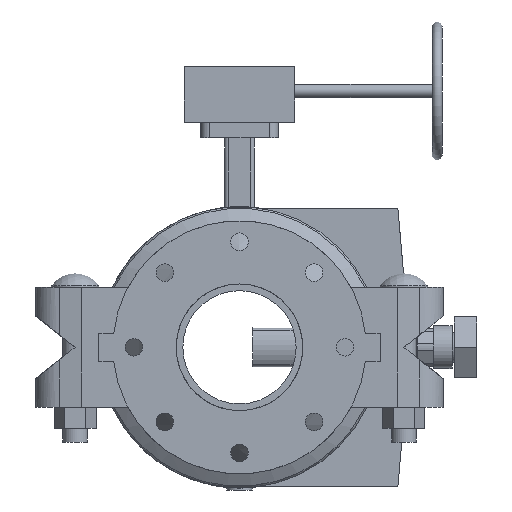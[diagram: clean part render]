
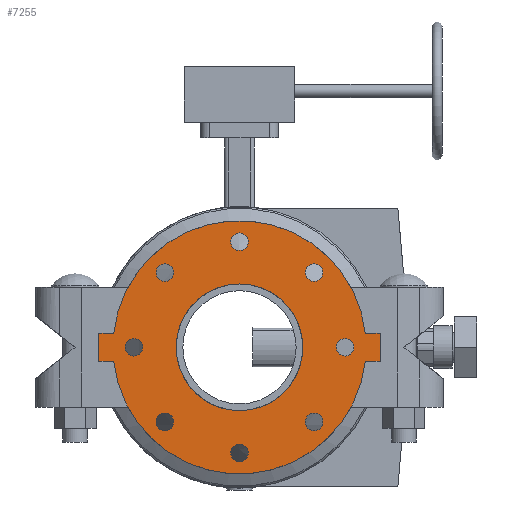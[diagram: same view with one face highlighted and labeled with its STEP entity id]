
A CAD part, front view. The second image highlights one B-rep face of the part: STEP entity #7255.
In plain terms, the highlighted planar face has unit normal (0, -1, 0) as drawn and (0, 0, -1) by its records, which use the part's own axes.
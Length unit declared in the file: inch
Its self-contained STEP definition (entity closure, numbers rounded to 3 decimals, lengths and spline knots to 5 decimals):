
#188=FACE_BOUND('',#922,.T.);
#189=FACE_BOUND('',#923,.T.);
#190=FACE_BOUND('',#924,.T.);
#191=FACE_BOUND('',#925,.T.);
#192=FACE_BOUND('',#926,.T.);
#193=FACE_BOUND('',#927,.T.);
#194=FACE_BOUND('',#928,.T.);
#195=FACE_BOUND('',#929,.T.);
#196=FACE_BOUND('',#930,.T.);
#278=PLANE('',#7868);
#524=FACE_OUTER_BOUND('',#921,.T.);
#921=EDGE_LOOP('',(#4666,#4667,#4668,#4669,#4670,#4671,#4672,#4673));
#922=EDGE_LOOP('',(#4674));
#923=EDGE_LOOP('',(#4675));
#924=EDGE_LOOP('',(#4676));
#925=EDGE_LOOP('',(#4677));
#926=EDGE_LOOP('',(#4678));
#927=EDGE_LOOP('',(#4679));
#928=EDGE_LOOP('',(#4680));
#929=EDGE_LOOP('',(#4681));
#930=EDGE_LOOP('',(#4682,#4683));
#1408=LINE('',#10997,#1949);
#1409=LINE('',#10999,#1950);
#1410=LINE('',#11001,#1951);
#1411=LINE('',#11005,#1952);
#1412=LINE('',#11007,#1953);
#1413=LINE('',#11008,#1954);
#1949=VECTOR('',#8759,0.3937);
#1950=VECTOR('',#8760,0.3937);
#1951=VECTOR('',#8761,0.3937);
#1952=VECTOR('',#8764,0.3937);
#1953=VECTOR('',#8765,0.3937);
#1954=VECTOR('',#8766,0.3937);
#2483=CIRCLE('',#7846,0.3125);
#2485=CIRCLE('',#7849,0.3125);
#2487=CIRCLE('',#7852,0.3125);
#2489=CIRCLE('',#7855,0.3125);
#2491=CIRCLE('',#7858,0.3125);
#2493=CIRCLE('',#7861,0.3125);
#2495=CIRCLE('',#7864,0.3125);
#2497=CIRCLE('',#7867,0.3125);
#2498=CIRCLE('',#7869,4.5);
#2499=CIRCLE('',#7870,4.5);
#2500=CIRCLE('',#7871,2.25);
#2501=CIRCLE('',#7872,2.25);
#2896=VERTEX_POINT('',#10947);
#2898=VERTEX_POINT('',#10953);
#2900=VERTEX_POINT('',#10959);
#2902=VERTEX_POINT('',#10965);
#2904=VERTEX_POINT('',#10971);
#2906=VERTEX_POINT('',#10977);
#2908=VERTEX_POINT('',#10983);
#2910=VERTEX_POINT('',#10989);
#2911=VERTEX_POINT('',#10993);
#2912=VERTEX_POINT('',#10994);
#2913=VERTEX_POINT('',#10996);
#2914=VERTEX_POINT('',#10998);
#2915=VERTEX_POINT('',#11000);
#2916=VERTEX_POINT('',#11002);
#2917=VERTEX_POINT('',#11004);
#2918=VERTEX_POINT('',#11006);
#2919=VERTEX_POINT('',#11009);
#2920=VERTEX_POINT('',#11010);
#3598=EDGE_CURVE('',#2896,#2896,#2483,.T.);
#3601=EDGE_CURVE('',#2898,#2898,#2485,.T.);
#3604=EDGE_CURVE('',#2900,#2900,#2487,.T.);
#3607=EDGE_CURVE('',#2902,#2902,#2489,.T.);
#3610=EDGE_CURVE('',#2904,#2904,#2491,.T.);
#3613=EDGE_CURVE('',#2906,#2906,#2493,.T.);
#3616=EDGE_CURVE('',#2908,#2908,#2495,.T.);
#3619=EDGE_CURVE('',#2910,#2910,#2497,.T.);
#3620=EDGE_CURVE('',#2911,#2912,#2498,.T.);
#3621=EDGE_CURVE('',#2912,#2913,#1408,.T.);
#3622=EDGE_CURVE('',#2913,#2914,#1409,.T.);
#3623=EDGE_CURVE('',#2914,#2915,#1410,.T.);
#3624=EDGE_CURVE('',#2915,#2916,#2499,.T.);
#3625=EDGE_CURVE('',#2916,#2917,#1411,.T.);
#3626=EDGE_CURVE('',#2917,#2918,#1412,.T.);
#3627=EDGE_CURVE('',#2918,#2911,#1413,.T.);
#3628=EDGE_CURVE('',#2919,#2920,#2500,.T.);
#3629=EDGE_CURVE('',#2920,#2919,#2501,.T.);
#4666=ORIENTED_EDGE('',*,*,#3620,.T.);
#4667=ORIENTED_EDGE('',*,*,#3621,.T.);
#4668=ORIENTED_EDGE('',*,*,#3622,.T.);
#4669=ORIENTED_EDGE('',*,*,#3623,.T.);
#4670=ORIENTED_EDGE('',*,*,#3624,.T.);
#4671=ORIENTED_EDGE('',*,*,#3625,.T.);
#4672=ORIENTED_EDGE('',*,*,#3626,.T.);
#4673=ORIENTED_EDGE('',*,*,#3627,.T.);
#4674=ORIENTED_EDGE('',*,*,#3598,.T.);
#4675=ORIENTED_EDGE('',*,*,#3601,.T.);
#4676=ORIENTED_EDGE('',*,*,#3604,.T.);
#4677=ORIENTED_EDGE('',*,*,#3607,.T.);
#4678=ORIENTED_EDGE('',*,*,#3610,.T.);
#4679=ORIENTED_EDGE('',*,*,#3613,.T.);
#4680=ORIENTED_EDGE('',*,*,#3616,.T.);
#4681=ORIENTED_EDGE('',*,*,#3619,.T.);
#4682=ORIENTED_EDGE('',*,*,#3628,.T.);
#4683=ORIENTED_EDGE('',*,*,#3629,.T.);
#7255=ADVANCED_FACE('',(#524,#188,#189,#190,#191,#192,#193,#194,#195,#196),
#278,.T.);
#7846=AXIS2_PLACEMENT_3D('',#10949,#8704,#8705);
#7849=AXIS2_PLACEMENT_3D('',#10955,#8711,#8712);
#7852=AXIS2_PLACEMENT_3D('',#10961,#8718,#8719);
#7855=AXIS2_PLACEMENT_3D('',#10967,#8725,#8726);
#7858=AXIS2_PLACEMENT_3D('',#10973,#8732,#8733);
#7861=AXIS2_PLACEMENT_3D('',#10979,#8739,#8740);
#7864=AXIS2_PLACEMENT_3D('',#10985,#8746,#8747);
#7867=AXIS2_PLACEMENT_3D('',#10991,#8753,#8754);
#7868=AXIS2_PLACEMENT_3D('',#10992,#8755,#8756);
#7869=AXIS2_PLACEMENT_3D('',#10995,#8757,#8758);
#7870=AXIS2_PLACEMENT_3D('',#11003,#8762,#8763);
#7871=AXIS2_PLACEMENT_3D('',#11011,#8767,#8768);
#7872=AXIS2_PLACEMENT_3D('',#11012,#8769,#8770);
#8704=DIRECTION('center_axis',(0.,0.,1.));
#8705=DIRECTION('ref_axis',(-0.707,0.707,0.));
#8711=DIRECTION('center_axis',(0.,0.,1.));
#8712=DIRECTION('ref_axis',(0.,1.,0.));
#8718=DIRECTION('center_axis',(0.,0.,1.));
#8719=DIRECTION('ref_axis',(0.707,0.707,0.));
#8725=DIRECTION('center_axis',(0.,0.,1.));
#8726=DIRECTION('ref_axis',(1.,0.,0.));
#8732=DIRECTION('center_axis',(0.,0.,1.));
#8733=DIRECTION('ref_axis',(0.707,-0.707,0.));
#8739=DIRECTION('center_axis',(0.,0.,1.));
#8740=DIRECTION('ref_axis',(0.,-1.,0.));
#8746=DIRECTION('center_axis',(0.,0.,1.));
#8747=DIRECTION('ref_axis',(-0.707,-0.707,0.));
#8753=DIRECTION('center_axis',(0.,0.,1.));
#8754=DIRECTION('ref_axis',(-1.,0.,0.));
#8755=DIRECTION('center_axis',(0.,0.,-1.));
#8756=DIRECTION('ref_axis',(-1.,0.,0.));
#8757=DIRECTION('center_axis',(0.,0.,-1.));
#8758=DIRECTION('ref_axis',(-1.,0.,0.));
#8759=DIRECTION('',(0.,1.,0.));
#8760=DIRECTION('',(1.,0.,0.));
#8761=DIRECTION('',(0.,-1.,0.));
#8762=DIRECTION('center_axis',(0.,0.,-1.));
#8763=DIRECTION('ref_axis',(-1.,0.,0.));
#8764=DIRECTION('',(0.,-1.,0.));
#8765=DIRECTION('',(-1.,0.,0.));
#8766=DIRECTION('',(0.,1.,0.));
#8767=DIRECTION('center_axis',(0.,0.,1.));
#8768=DIRECTION('ref_axis',(-1.,0.,0.));
#8769=DIRECTION('center_axis',(0.,0.,1.));
#8770=DIRECTION('ref_axis',(-1.,0.,0.));
#10947=CARTESIAN_POINT('',(-2.43068,2.43068,-0.5));
#10949=CARTESIAN_POINT('Origin',(-2.65165,2.65165,-0.5));
#10953=CARTESIAN_POINT('',(0.,3.4375,-0.5));
#10955=CARTESIAN_POINT('Origin',(0.,3.75,-0.5));
#10959=CARTESIAN_POINT('',(2.43068,2.43068,-0.5));
#10961=CARTESIAN_POINT('Origin',(2.65165,2.65165,-0.5));
#10965=CARTESIAN_POINT('',(3.4375,0.,-0.5));
#10967=CARTESIAN_POINT('Origin',(3.75,0.,-0.5));
#10971=CARTESIAN_POINT('',(2.43068,-2.43068,-0.5));
#10973=CARTESIAN_POINT('Origin',(2.65165,-2.65165,-0.5));
#10977=CARTESIAN_POINT('',(0.,-3.4375,-0.5));
#10979=CARTESIAN_POINT('Origin',(0.,-3.75,-0.5));
#10983=CARTESIAN_POINT('',(-2.43068,-2.43068,-0.5));
#10985=CARTESIAN_POINT('Origin',(-2.65165,-2.65165,-0.5));
#10989=CARTESIAN_POINT('',(-3.4375,0.,-0.5));
#10991=CARTESIAN_POINT('Origin',(-3.75,0.,-0.5));
#10992=CARTESIAN_POINT('Origin',(0.,0.,-0.5));
#10993=CARTESIAN_POINT('',(-0.5,-4.47214,-0.5));
#10994=CARTESIAN_POINT('',(-0.5,4.47214,-0.5));
#10995=CARTESIAN_POINT('Origin',(0.,0.,-0.5));
#10996=CARTESIAN_POINT('',(-0.5,5.,-0.5));
#10997=CARTESIAN_POINT('',(-0.5,-5.,-0.5));
#10998=CARTESIAN_POINT('',(0.5,5.,-0.5));
#10999=CARTESIAN_POINT('',(-0.5,5.,-0.5));
#11000=CARTESIAN_POINT('',(0.5,4.47214,-0.5));
#11001=CARTESIAN_POINT('',(0.5,5.,-0.5));
#11002=CARTESIAN_POINT('',(0.5,-4.47214,-0.5));
#11003=CARTESIAN_POINT('Origin',(0.,0.,-0.5));
#11004=CARTESIAN_POINT('',(0.5,-5.,-0.5));
#11005=CARTESIAN_POINT('',(0.5,5.,-0.5));
#11006=CARTESIAN_POINT('',(-0.5,-5.,-0.5));
#11007=CARTESIAN_POINT('',(0.5,-5.,-0.5));
#11008=CARTESIAN_POINT('',(-0.5,-5.,-0.5));
#11009=CARTESIAN_POINT('',(0.5,2.19374,-0.5));
#11010=CARTESIAN_POINT('',(2.25,0.,-0.5));
#11011=CARTESIAN_POINT('Origin',(0.,0.,-0.5));
#11012=CARTESIAN_POINT('Origin',(0.,0.,-0.5));
